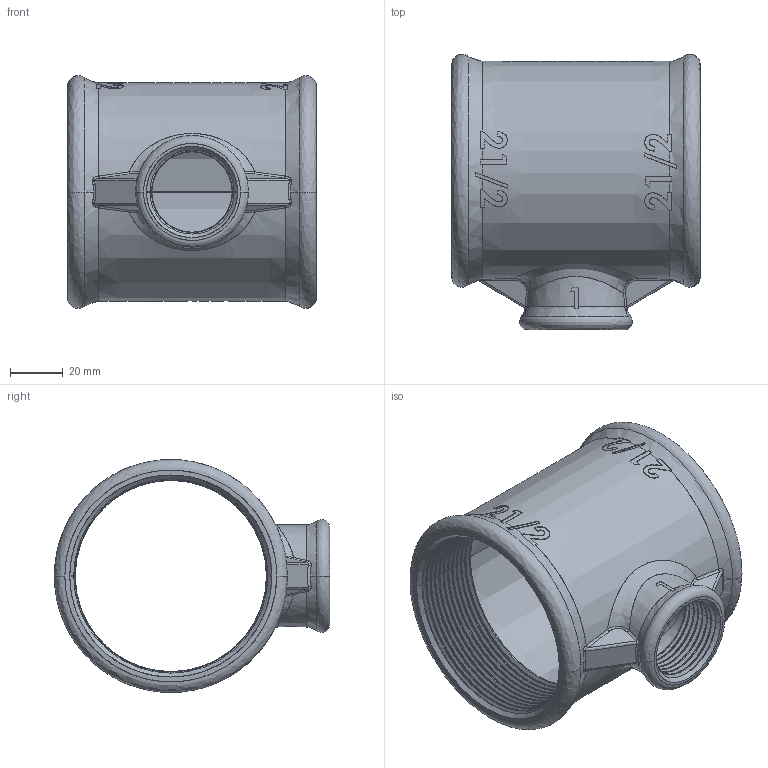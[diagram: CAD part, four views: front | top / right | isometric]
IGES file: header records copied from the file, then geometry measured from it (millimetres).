
Start section: SolidWorks IGES file using analytic representation for surfaces
Global section: file name: C:\Users\Joel Rosa\Desktop\Tubulação\12-45-XXX\12-45-048.IGS; native system: SolidWorks 2011; preprocessor: SolidWorks 2011; author: Joel Rosa; date: 121212.234415; units: millimetre
Bounding box: 94 x 104 x 88 mm (x, y, z)
Surface area: 62563 mm2 (no closed solid volume)
Topology: 0 solids, 0 shells, 532 faces, 5316 edges, 5316 vertices
Faces by surface type: bspline 377, revolution 155
